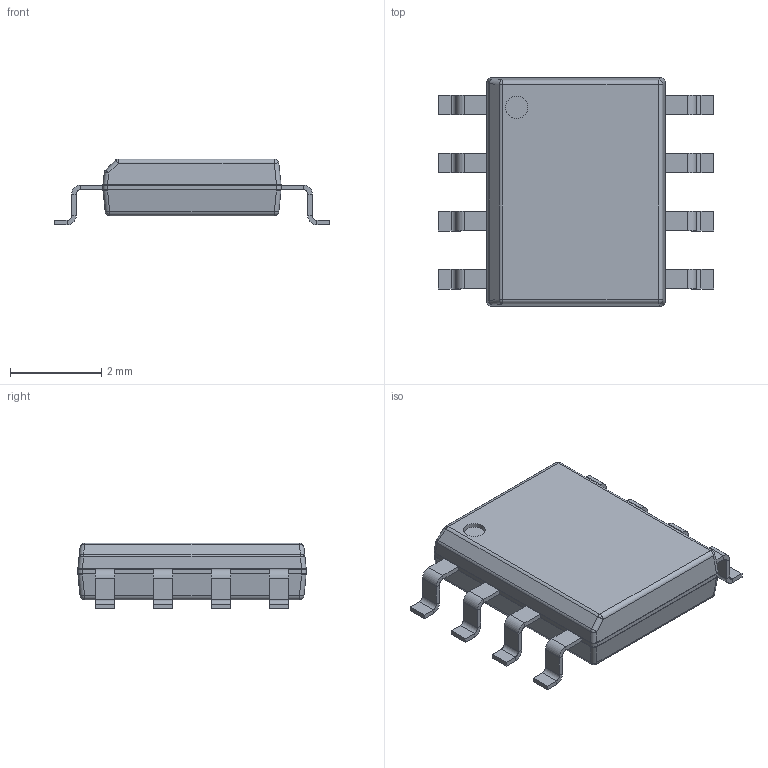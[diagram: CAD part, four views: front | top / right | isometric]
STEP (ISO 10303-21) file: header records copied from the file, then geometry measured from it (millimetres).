
FILE_DESCRIPTION(('Open CASCADE Model'),'2;1');
FILE_NAME('Open CASCADE Shape Model','2018-06-29T12:09:02',('Author'),( 'Open CASCADE'),'Open CASCADE STEP processor 6.8','Open CASCADE 6.8' ,'Unknown');
FILE_SCHEMA(('AUTOMOTIVE_DESIGN_CC2 { 1 2 10303 214 -1 1 5 4 }'));
Length unit declared in the file: millimetre
Products named in the file (5): SOIC-81.step; Open CASCADE STEP translator 6.8 20.1; Body; Open CASCADE STEP translator 6.8 20.2.1; Leader
Assembly tree (11 placements, depth 3):
  SOIC-81.step
    Open CASCADE STEP translator 6.8 20.1
    Body
      Open CASCADE STEP translator 6.8 20.2.1
    Leader  x8
Bounding box: 6.03 x 5 x 1.44 mm (x, y, z)
Volume: 23.9 mm3; surface area: 72.5 mm2
Topology: 9 solids, 10 shells, 243 faces, 490 edges, 257 vertices
Faces by surface type: plane 161, cylinder 64, sphere 10, bspline 8
Full cylindrical faces by diameter (mm): 0.487 x1
Entity records: 5490 total; most frequent: CARTESIAN_POINT 1989, DIRECTION 585, ORIENTED_EDGE 343, PCURVE 343, DEFINITIONAL_REPRESENTATION 343, LINE 311, VECTOR 311, EDGE_CURVE 172
